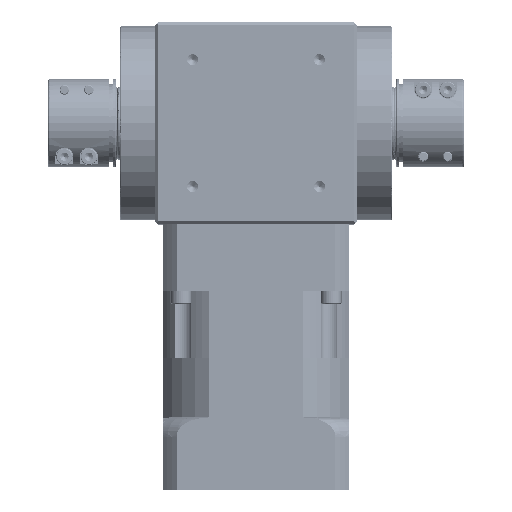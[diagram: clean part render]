
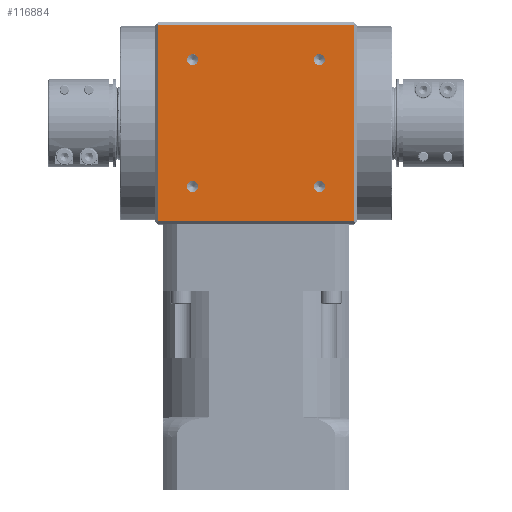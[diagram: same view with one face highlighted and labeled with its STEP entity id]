
A CAD part, top view. The second image highlights one B-rep face of the part: STEP entity #116884.
In plain terms, the highlighted planar face has unit normal (0, 0, 1).
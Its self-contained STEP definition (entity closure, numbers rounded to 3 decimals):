
#1432 = EDGE_CURVE ( 'NONE', #98986, #143449, #133544, .T. ) ;
#1507 = AXIS2_PLACEMENT_3D ( 'NONE', #64439, #64108, #63970 ) ;
#3960 = EDGE_CURVE ( 'NONE', #102855, #136649, #132842, .T. ) ;
#6330 = CARTESIAN_POINT ( 'NONE',  ( -38.891, 235.191, 62. ) ) ;
#6388 = AXIS2_PLACEMENT_3D ( 'NONE', #85261, #18924, #96438 ) ;
#6569 = EDGE_CURVE ( 'NONE', #141024, #113133, #45785, .T. ) ;
#6899 = AXIS2_PLACEMENT_3D ( 'NONE', #6330, #83849, #17483 ) ;
#8237 = AXIS2_PLACEMENT_3D ( 'NONE', #121813, #55429, #132951 ) ;
#8504 = DIRECTION ( 'NONE',  ( -1., 0., 0. ) ) ;
#8633 = CARTESIAN_POINT ( 'NONE',  ( -75., 136.3, 62. ) ) ;
#8644 = CARTESIAN_POINT ( 'NONE',  ( -38.891, 231.791, 62. ) ) ;
#9360 = DIRECTION ( 'NONE',  ( 0., 0., 1. ) ) ;
#12911 = EDGE_CURVE ( 'NONE', #64336, #123835, #52224, .T. ) ;
#13100 = CARTESIAN_POINT ( 'NONE',  ( -75., 258.3, 62. ) ) ;
#13568 = CIRCLE ( 'NONE', #8237, 3.4 ) ;
#13676 = ORIENTED_EDGE ( 'NONE', *, *, #28463, .F. ) ;
#14989 = CARTESIAN_POINT ( 'NONE',  ( 59.887, 136.3, 62. ) ) ;
#17012 = CARTESIAN_POINT ( 'NONE',  ( 59.887, 256.3, 62. ) ) ;
#17103 = LINE ( 'NONE', #91919, #76018 ) ;
#17483 = DIRECTION ( 'NONE',  ( 0., -1., 0. ) ) ;
#18924 = DIRECTION ( 'NONE',  ( 0., 0., 1. ) ) ;
#22662 = CARTESIAN_POINT ( 'NONE',  ( -59.887, 0., 62. ) ) ;
#24226 = DIRECTION ( 'NONE',  ( 0., 1., 0. ) ) ;
#25496 = DIRECTION ( 'NONE',  ( 0., -1., 0. ) ) ;
#26959 = EDGE_CURVE ( 'NONE', #123835, #64336, #125904, .T. ) ;
#27682 = CARTESIAN_POINT ( 'NONE',  ( 38.891, 238.591, 62. ) ) ;
#28463 = EDGE_CURVE ( 'NONE', #143449, #102855, #91008, .T. ) ;
#29720 = CIRCLE ( 'NONE', #87931, 3.4 ) ;
#32461 = EDGE_CURVE ( 'NONE', #130860, #121279, #29720, .T. ) ;
#32752 = CARTESIAN_POINT ( 'NONE',  ( -38.891, 157.409, 62. ) ) ;
#33683 = ORIENTED_EDGE ( 'NONE', *, *, #1432, .F. ) ;
#34320 = CIRCLE ( 'NONE', #75779, 3.4 ) ;
#39494 = DIRECTION ( 'NONE',  ( 0., 0., 1. ) ) ;
#43545 = ORIENTED_EDGE ( 'NONE', *, *, #125792, .F. ) ;
#43880 = DIRECTION ( 'NONE',  ( 0., -1., 0. ) ) ;
#45785 = CIRCLE ( 'NONE', #1507, 3.4 ) ;
#46930 = CIRCLE ( 'NONE', #107240, 3.4 ) ;
#47688 = CARTESIAN_POINT ( 'NONE',  ( 38.891, 235.191, 62. ) ) ;
#48564 = VECTOR ( 'NONE', #8504, 1000. ) ;
#52217 = EDGE_LOOP ( 'NONE', ( #106117, #54298 ) ) ;
#52224 = CIRCLE ( 'NONE', #124406, 3.4 ) ;
#53884 = AXIS2_PLACEMENT_3D ( 'NONE', #13100, #90624, #24226 ) ;
#54298 = ORIENTED_EDGE ( 'NONE', *, *, #66570, .F. ) ;
#55429 = DIRECTION ( 'NONE',  ( 0., 0., 1. ) ) ;
#58433 = CARTESIAN_POINT ( 'NONE',  ( -38.891, 160.809, 62. ) ) ;
#58870 = DIRECTION ( 'NONE',  ( 0., -1., 0. ) ) ;
#59626 = FACE_OUTER_BOUND ( 'NONE', #126750, .T. ) ;
#60576 = CARTESIAN_POINT ( 'NONE',  ( 38.891, 231.791, 62. ) ) ;
#61524 = VECTOR ( 'NONE', #111364, 1000. ) ;
#63150 = FACE_BOUND ( 'NONE', #76561, .T. ) ;
#63970 = DIRECTION ( 'NONE',  ( 0., -1., 0. ) ) ;
#64108 = DIRECTION ( 'NONE',  ( 0., 0., 1. ) ) ;
#64194 = ORIENTED_EDGE ( 'NONE', *, *, #6569, .F. ) ;
#64336 = VERTEX_POINT ( 'NONE', #8644 ) ;
#64439 = CARTESIAN_POINT ( 'NONE',  ( -38.891, 157.409, 62. ) ) ;
#66570 = EDGE_CURVE ( 'NONE', #87050, #126847, #13568, .T. ) ;
#67420 = ORIENTED_EDGE ( 'NONE', *, *, #96554, .F. ) ;
#73904 = VECTOR ( 'NONE', #74839, 1000. ) ;
#74839 = DIRECTION ( 'NONE',  ( 1., 0., 0. ) ) ;
#75716 = CARTESIAN_POINT ( 'NONE',  ( -38.891, 235.191, 62. ) ) ;
#75779 = AXIS2_PLACEMENT_3D ( 'NONE', #47688, #125284, #58870 ) ;
#75971 = CARTESIAN_POINT ( 'NONE',  ( -75., 256.3, 62. ) ) ;
#76018 = VECTOR ( 'NONE', #25496, 1000. ) ;
#76055 = CARTESIAN_POINT ( 'NONE',  ( -59.887, 256.3, 62. ) ) ;
#76561 = EDGE_LOOP ( 'NONE', ( #43545, #98419 ) ) ;
#83849 = DIRECTION ( 'NONE',  ( 0., 0., 1. ) ) ;
#85261 = CARTESIAN_POINT ( 'NONE',  ( 38.891, 157.409, 62. ) ) ;
#86859 = DIRECTION ( 'NONE',  ( 0., -1., 0. ) ) ;
#87050 = VERTEX_POINT ( 'NONE', #129769 ) ;
#87931 = AXIS2_PLACEMENT_3D ( 'NONE', #105943, #39494, #117092 ) ;
#89099 = FACE_BOUND ( 'NONE', #142299, .T. ) ;
#90624 = DIRECTION ( 'NONE',  ( 0., 0., -1. ) ) ;
#91008 = LINE ( 'NONE', #22662, #61524 ) ;
#91919 = CARTESIAN_POINT ( 'NONE',  ( 59.887, 0., 62. ) ) ;
#94208 = ORIENTED_EDGE ( 'NONE', *, *, #3960, .F. ) ;
#95638 = EDGE_LOOP ( 'NONE', ( #116890, #105724 ) ) ;
#96438 = DIRECTION ( 'NONE',  ( 0., -1., 0. ) ) ;
#96554 = EDGE_CURVE ( 'NONE', #136649, #98986, #17103, .T. ) ;
#98419 = ORIENTED_EDGE ( 'NONE', *, *, #32461, .F. ) ;
#98986 = VERTEX_POINT ( 'NONE', #14989 ) ;
#101295 = PLANE ( 'NONE',  #53884 ) ;
#102855 = VERTEX_POINT ( 'NONE', #76055 ) ;
#103019 = FACE_BOUND ( 'NONE', #95638, .T. ) ;
#105724 = ORIENTED_EDGE ( 'NONE', *, *, #26959, .F. ) ;
#105943 = CARTESIAN_POINT ( 'NONE',  ( 38.891, 235.191, 62. ) ) ;
#106117 = ORIENTED_EDGE ( 'NONE', *, *, #113741, .F. ) ;
#106945 = EDGE_CURVE ( 'NONE', #113133, #141024, #46930, .T. ) ;
#107240 = AXIS2_PLACEMENT_3D ( 'NONE', #32752, #110343, #43880 ) ;
#110343 = DIRECTION ( 'NONE',  ( 0., 0., 1. ) ) ;
#111364 = DIRECTION ( 'NONE',  ( 0., 1., 0. ) ) ;
#113133 = VERTEX_POINT ( 'NONE', #120639 ) ;
#113466 = CARTESIAN_POINT ( 'NONE',  ( -59.887, 136.3, 62. ) ) ;
#113741 = EDGE_CURVE ( 'NONE', #126847, #87050, #117210, .T. ) ;
#116884 = ADVANCED_FACE ( 'NONE', ( #103019, #63150, #118593, #89099, #59626 ), #101295, .F. ) ;
#116890 = ORIENTED_EDGE ( 'NONE', *, *, #12911, .F. ) ;
#117092 = DIRECTION ( 'NONE',  ( 0., -1., 0. ) ) ;
#117210 = CIRCLE ( 'NONE', #6388, 3.4 ) ;
#118593 = FACE_BOUND ( 'NONE', #52217, .T. ) ;
#120639 = CARTESIAN_POINT ( 'NONE',  ( -38.891, 154.009, 62. ) ) ;
#121279 = VERTEX_POINT ( 'NONE', #60576 ) ;
#121813 = CARTESIAN_POINT ( 'NONE',  ( 38.891, 157.409, 62. ) ) ;
#123835 = VERTEX_POINT ( 'NONE', #138689 ) ;
#124406 = AXIS2_PLACEMENT_3D ( 'NONE', #75716, #9360, #86859 ) ;
#125284 = DIRECTION ( 'NONE',  ( 0., 0., 1. ) ) ;
#125792 = EDGE_CURVE ( 'NONE', #121279, #130860, #34320, .T. ) ;
#125904 = CIRCLE ( 'NONE', #6899, 3.4 ) ;
#126750 = EDGE_LOOP ( 'NONE', ( #67420, #94208, #13676, #33683 ) ) ;
#126847 = VERTEX_POINT ( 'NONE', #139496 ) ;
#127976 = ORIENTED_EDGE ( 'NONE', *, *, #106945, .F. ) ;
#129769 = CARTESIAN_POINT ( 'NONE',  ( 38.891, 160.809, 62. ) ) ;
#130860 = VERTEX_POINT ( 'NONE', #27682 ) ;
#132842 = LINE ( 'NONE', #75971, #73904 ) ;
#132951 = DIRECTION ( 'NONE',  ( 0., -1., 0. ) ) ;
#133544 = LINE ( 'NONE', #8633, #48564 ) ;
#136649 = VERTEX_POINT ( 'NONE', #17012 ) ;
#138689 = CARTESIAN_POINT ( 'NONE',  ( -38.891, 238.591, 62. ) ) ;
#139496 = CARTESIAN_POINT ( 'NONE',  ( 38.891, 154.009, 62. ) ) ;
#141024 = VERTEX_POINT ( 'NONE', #58433 ) ;
#142299 = EDGE_LOOP ( 'NONE', ( #127976, #64194 ) ) ;
#143449 = VERTEX_POINT ( 'NONE', #113466 ) ;
